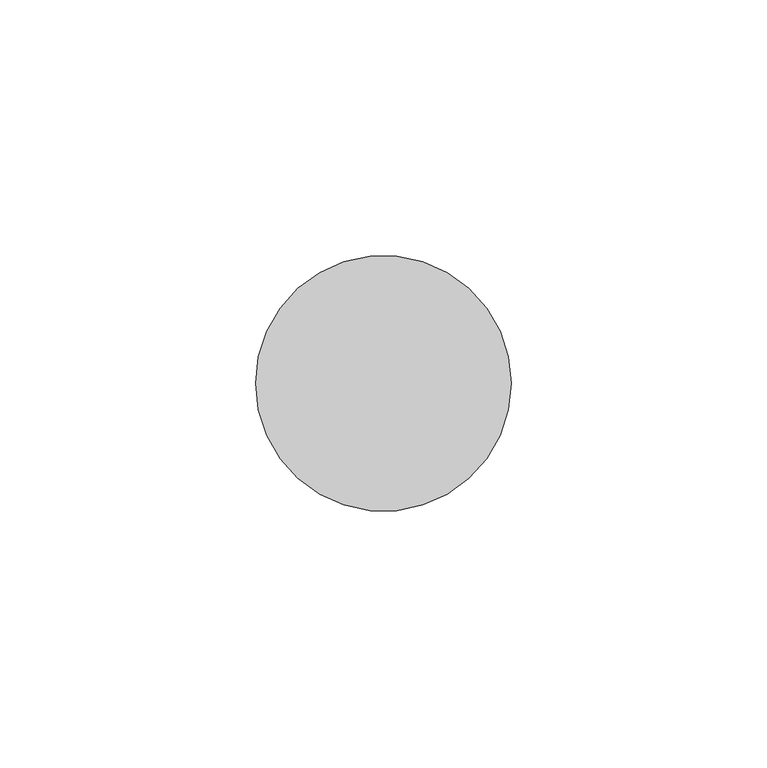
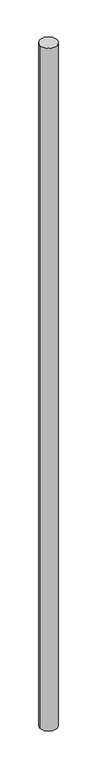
"""IFC4 building model written with IfcOpenShell, lengths in millimetres: member geometry, 圓形豎框 : 25mm 半徑."""

from ifc_helpers import new_model, si_unit, point, frame, origin, origin_2d, place, context, project, spatial, circle_curve, trimmed, segment, composite_curve, outline, extrude, source, transform, mapped, element, save


def member_845dd39e(model_context):
    return source(origin(), model_context, "Body", "SweptSolid", [
        extrude(outline(composite_curve([segment(trimmed(circle_curve(origin_2d(), 25.0), [point((25.0, 0.0))], [point((-25.0, 0.0))], False, "CARTESIAN"), True, "CONTINUOUS"), segment(trimmed(circle_curve(origin_2d(), 25.0), [point((-25.0, 0.0))], [point((25.0, 0.0))], False, "CARTESIAN"), True, "CONTINUOUS")], self_intersect=False)), frame((0.0, 0.0, -2096.2457629), z_axis=(0.0, 0.0, 1.0), x_axis=(1.0, 0.0, 0.0)), (0.0, 0.0, 1.0), 2096.2457629),
    ])


if __name__ == "__main__":
    model = new_model("IFC4")
    model_context = context("Model", 3, world=origin())
    ifc_project = project(units=[si_unit("LENGTHUNIT", "METRE", prefix="MILLI")], contexts=[model_context])
    site = spatial("IfcSite", under=ifc_project)
    building = spatial("IfcBuilding", under=site)
    placement = place(None, origin())
    member_shape = member_845dd39e(model_context)
    element("IfcMember", 1, ObjectType="圓形豎框 : 25mm 半徑", at=placement, inside=building, context=model_context, shape_type="MappedRepresentation", body=[
        mapped(member_shape, transform((0.0, 0.0, 0.0), x_axis=(1.0, 0.0, 0.0), y_axis=(0.0, 1.0, 0.0), z_axis=(0.0, 0.0, 1.0))),
    ])
    save(model, "model.ifc")
